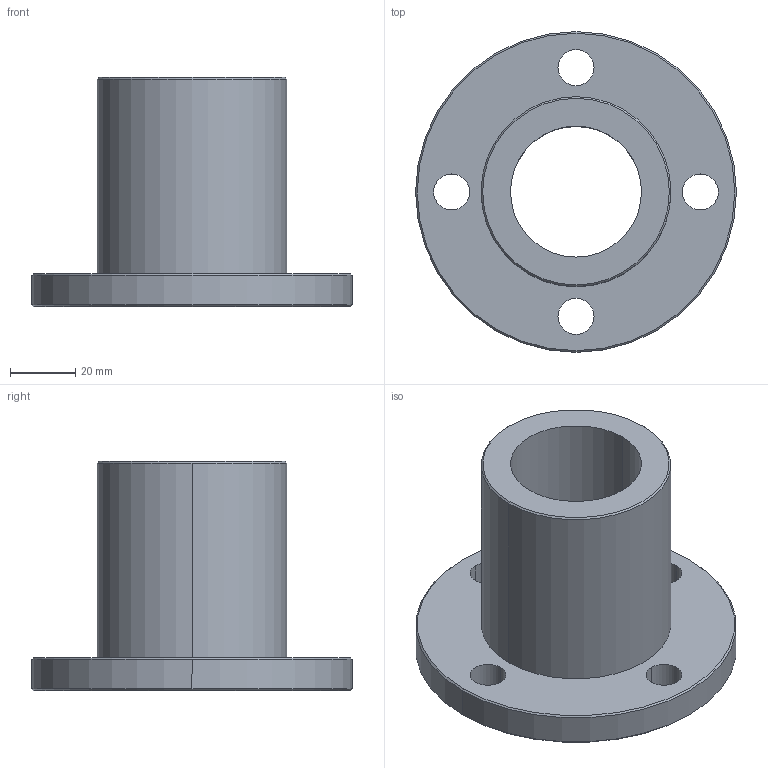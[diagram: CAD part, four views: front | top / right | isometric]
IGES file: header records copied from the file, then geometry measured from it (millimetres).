
Start section: 3D InterOp IGES (Version 21 0 1), Spatial Corp. Copyright (c) 1999-2007.
Global section: file name: TMFON-40R.igs; native system: Spatial Corp.; preprocessor: 3D InterOp GENERIC/IGES 3.0; author: Noname; organization: Noname; date: 20220208.143446; units: millimetre
Bounding box: 98 x 98 x 70 mm (x, y, z)
Surface area: 35768 mm2 (no closed solid volume)
Topology: 0 solids, 0 shells, 23 faces, 108 edges, 108 vertices
Faces by surface type: revolution 20, extrusion 3
